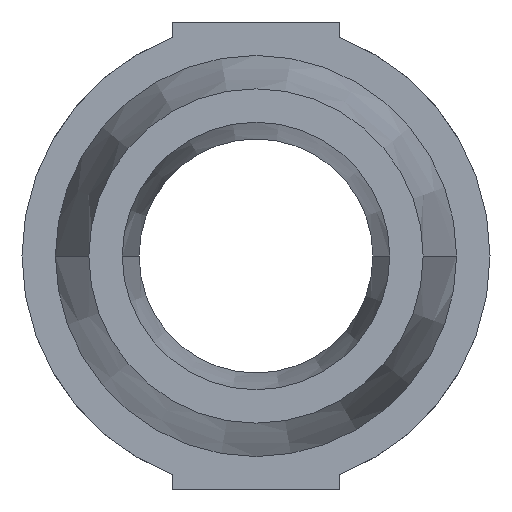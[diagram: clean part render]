
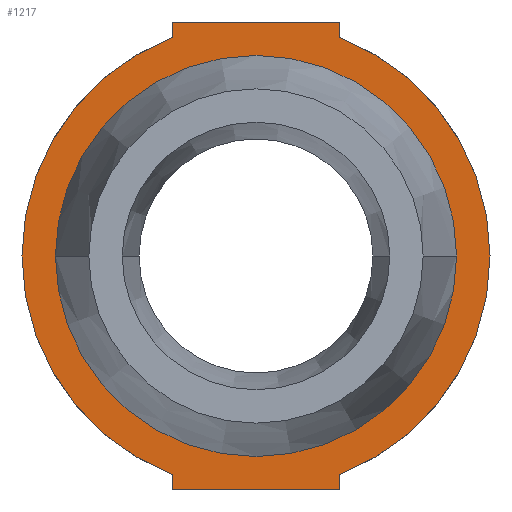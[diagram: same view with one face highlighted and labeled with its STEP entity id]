
A CAD part, left-side view. The second image highlights one B-rep face of the part: STEP entity #1217.
In plain terms, the highlighted planar face has unit normal (-1, 0, 0).
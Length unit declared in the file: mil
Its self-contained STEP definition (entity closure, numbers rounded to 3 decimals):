
#7 = CARTESIAN_POINT ( 'NONE',  ( 0., 98.425, -257.415 ) ) ;
#22 = AXIS2_PLACEMENT_3D ( 'NONE', #1748, #1585, #1716 ) ;
#28 = ORIENTED_EDGE ( 'NONE', *, *, #1278, .F. ) ;
#31 = ORIENTED_EDGE ( 'NONE', *, *, #1161, .F. ) ;
#52 = CARTESIAN_POINT ( 'NONE',  ( 0., -98.425, -257.415 ) ) ;
#58 = VERTEX_POINT ( 'NONE', #573 ) ;
#61 = DIRECTION ( 'NONE',  ( 0., 0.357, -0.934 ) ) ;
#80 = LINE ( 'NONE', #1504, #822 ) ;
#202 = VERTEX_POINT ( 'NONE', #975 ) ;
#214 = EDGE_LOOP ( 'NONE', ( #31, #1300 ) ) ;
#222 = CIRCLE ( 'NONE', #1672, 275.591 ) ;
#242 = DIRECTION ( 'NONE',  ( 0., -1., 0. ) ) ;
#289 = VECTOR ( 'NONE', #242, 39370.079 ) ;
#293 = LINE ( 'NONE', #1364, #812 ) ;
#319 = AXIS2_PLACEMENT_3D ( 'NONE', #1302, #1960, #804 ) ;
#370 = DIRECTION ( 'NONE',  ( 0., 0., -1. ) ) ;
#378 = FACE_OUTER_BOUND ( 'NONE', #1699, .T. ) ;
#392 = CIRCLE ( 'NONE', #22, 236.22 ) ;
#409 = DIRECTION ( 'NONE',  ( 0., 0., -1. ) ) ;
#414 = VECTOR ( 'NONE', #644, 39370.079 ) ;
#439 = ORIENTED_EDGE ( 'NONE', *, *, #965, .F. ) ;
#481 = CARTESIAN_POINT ( 'NONE',  ( 0., -98.425, 257.415 ) ) ;
#522 = VERTEX_POINT ( 'NONE', #2067 ) ;
#543 = DIRECTION ( 'NONE',  ( -1., 0., 0. ) ) ;
#548 = DIRECTION ( 'NONE',  ( 0., 1., 0. ) ) ;
#571 = CARTESIAN_POINT ( 'NONE',  ( 0., -98.425, -275.591 ) ) ;
#573 = CARTESIAN_POINT ( 'NONE',  ( 0., 98.425, 275.591 ) ) ;
#578 = VERTEX_POINT ( 'NONE', #779 ) ;
#580 = CARTESIAN_POINT ( 'NONE',  ( 0., 0., 0. ) ) ;
#597 = EDGE_CURVE ( 'NONE', #202, #1944, #392, .T. ) ;
#617 = VERTEX_POINT ( 'NONE', #1889 ) ;
#644 = DIRECTION ( 'NONE',  ( 0., 0., 1. ) ) ;
#666 = LINE ( 'NONE', #1129, #414 ) ;
#700 = PLANE ( 'NONE',  #1780 ) ;
#707 = CARTESIAN_POINT ( 'NONE',  ( 0., -98.425, 275.591 ) ) ;
#754 = CARTESIAN_POINT ( 'NONE',  ( 0., -236.22, 0. ) ) ;
#779 = CARTESIAN_POINT ( 'NONE',  ( 0., -98.425, -257.415 ) ) ;
#782 = CARTESIAN_POINT ( 'NONE',  ( 0., -98.425, 275.591 ) ) ;
#784 = VERTEX_POINT ( 'NONE', #7 ) ;
#804 = DIRECTION ( 'NONE',  ( 0., -1., 0. ) ) ;
#809 = ORIENTED_EDGE ( 'NONE', *, *, #1432, .F. ) ;
#812 = VECTOR ( 'NONE', #548, 39370.079 ) ;
#816 = VERTEX_POINT ( 'NONE', #481 ) ;
#822 = VECTOR ( 'NONE', #886, 39370.079 ) ;
#886 = DIRECTION ( 'NONE',  ( 0., 0., 1. ) ) ;
#901 = FACE_BOUND ( 'NONE', #214, .T. ) ;
#938 = EDGE_CURVE ( 'NONE', #578, #816, #222, .T. ) ;
#958 = CIRCLE ( 'NONE', #319, 236.22 ) ;
#965 = EDGE_CURVE ( 'NONE', #58, #1360, #1017, .T. ) ;
#975 = CARTESIAN_POINT ( 'NONE',  ( 0., 236.22, 0. ) ) ;
#1017 = LINE ( 'NONE', #2019, #289 ) ;
#1129 = CARTESIAN_POINT ( 'NONE',  ( 0., 98.425, -275.591 ) ) ;
#1161 = EDGE_CURVE ( 'NONE', #1944, #202, #958, .T. ) ;
#1201 = ORIENTED_EDGE ( 'NONE', *, *, #938, .T. ) ;
#1206 = CARTESIAN_POINT ( 'NONE',  ( 0., 0., 0. ) ) ;
#1217 = ADVANCED_FACE ( 'NONE', ( #901, #378 ), #700, .F. ) ;
#1232 = CIRCLE ( 'NONE', #1395, 275.591 ) ;
#1278 = EDGE_CURVE ( 'NONE', #1360, #816, #1991, .T. ) ;
#1300 = ORIENTED_EDGE ( 'NONE', *, *, #597, .F. ) ;
#1302 = CARTESIAN_POINT ( 'NONE',  ( 0., 0., 0. ) ) ;
#1360 = VERTEX_POINT ( 'NONE', #782 ) ;
#1364 = CARTESIAN_POINT ( 'NONE',  ( 0., -98.425, -275.591 ) ) ;
#1395 = AXIS2_PLACEMENT_3D ( 'NONE', #1206, #2021, #61 ) ;
#1432 = EDGE_CURVE ( 'NONE', #522, #784, #666, .T. ) ;
#1486 = ORIENTED_EDGE ( 'NONE', *, *, #2081, .F. ) ;
#1504 = CARTESIAN_POINT ( 'NONE',  ( 0., 98.425, 257.415 ) ) ;
#1510 = LINE ( 'NONE', #52, #1629 ) ;
#1567 = EDGE_CURVE ( 'NONE', #617, #58, #80, .T. ) ;
#1585 = DIRECTION ( 'NONE',  ( -1., 0., 0. ) ) ;
#1629 = VECTOR ( 'NONE', #370, 39370.079 ) ;
#1638 = EDGE_CURVE ( 'NONE', #784, #617, #1232, .T. ) ;
#1672 = AXIS2_PLACEMENT_3D ( 'NONE', #1976, #543, #1819 ) ;
#1679 = VECTOR ( 'NONE', #409, 39370.079 ) ;
#1684 = ORIENTED_EDGE ( 'NONE', *, *, #2025, .F. ) ;
#1698 = DIRECTION ( 'NONE',  ( 0., 1., 0. ) ) ;
#1699 = EDGE_LOOP ( 'NONE', ( #439, #1963, #2061, #809, #1684, #1486, #1201, #28 ) ) ;
#1716 = DIRECTION ( 'NONE',  ( 0., 1., 0. ) ) ;
#1748 = CARTESIAN_POINT ( 'NONE',  ( 0., 0., 0. ) ) ;
#1780 = AXIS2_PLACEMENT_3D ( 'NONE', #580, #2014, #1698 ) ;
#1819 = DIRECTION ( 'NONE',  ( 0., -0.357, -0.934 ) ) ;
#1889 = CARTESIAN_POINT ( 'NONE',  ( 0., 98.425, 257.415 ) ) ;
#1944 = VERTEX_POINT ( 'NONE', #754 ) ;
#1960 = DIRECTION ( 'NONE',  ( -1., 0., 0. ) ) ;
#1963 = ORIENTED_EDGE ( 'NONE', *, *, #1567, .F. ) ;
#1976 = CARTESIAN_POINT ( 'NONE',  ( 0., 0., 0. ) ) ;
#1991 = LINE ( 'NONE', #707, #1679 ) ;
#2014 = DIRECTION ( 'NONE',  ( 1., 0., 0. ) ) ;
#2019 = CARTESIAN_POINT ( 'NONE',  ( 0., 98.425, 275.591 ) ) ;
#2021 = DIRECTION ( 'NONE',  ( 1., 0., 0. ) ) ;
#2025 = EDGE_CURVE ( 'NONE', #2039, #522, #293, .T. ) ;
#2039 = VERTEX_POINT ( 'NONE', #571 ) ;
#2061 = ORIENTED_EDGE ( 'NONE', *, *, #1638, .F. ) ;
#2067 = CARTESIAN_POINT ( 'NONE',  ( 0., 98.425, -275.591 ) ) ;
#2081 = EDGE_CURVE ( 'NONE', #578, #2039, #1510, .T. ) ;
